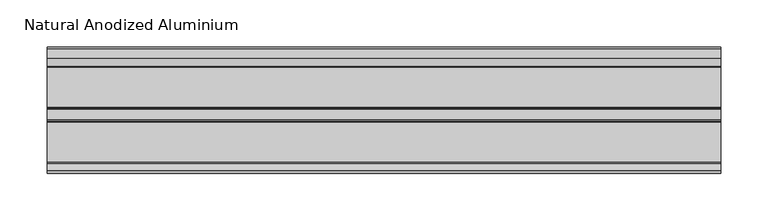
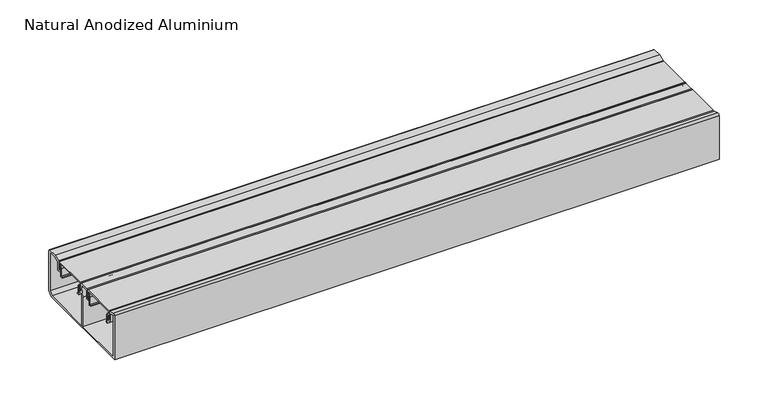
"""IFC4 building model written with IfcOpenShell, lengths in millimetres: proxy geometry, Electrical_Installations_Hager_GBA-Flat-Lid-End-Cap : Natural Anodized Aluminium."""

from ifc_helpers import new_model, si_unit, point, frame, frame_2d, origin, place, context, project, spatial, polyline, circle_curve, trimmed, segment, composite_curve, outline, extrude, source, transform, mapped, element, save


def natural_anodized_aluminium_3c063e0a(model_context):
    return source(origin(), model_context, "Body", "SweptSolid", [
        extrude(outline(composite_curve([segment(polyline([(-64.6976563, 54.0894343), (-64.6976563, 2.0), (-2.2476563, 2.0), (-2.2476563, 38.3324137), (-0.2476563, 49.6749773), (-0.2476563, 52.0), (-9.8476563, 52.0), (-9.8476563, 41.5012147), (-14.5382813, 41.5012147), (-14.5382813, 45.748101), (-13.5382813, 45.748101), (-13.5382813, 42.9887147), (-11.6476563, 42.9887147), (-11.6476563, 53.0031102)]), True, "CONTINUOUS"), segment(trimmed(circle_curve(frame_2d((-10.6507665, 53.0031102)), 0.9968898), [point((-11.6476563, 53.0031102))], [point((-10.6507665, 54.0))], False, "CARTESIAN"), True, "CONTINUOUS"), segment(polyline([(-10.6507665, 54.0), (0.7441474, 54.0)]), True, "CONTINUOUS"), segment(trimmed(circle_curve(frame_2d((0.7441474, 52.9918037)), 1.0081963), [point((0.7441474, 54.0))], [point((1.7523437, 52.9918037))], False, "CARTESIAN"), True, "CONTINUOUS"), segment(polyline([(1.7523437, 52.9918037), (1.7523437, 49.5), (0.6591165, 43.3), (3.2523437, 43.3), (3.2523437, 45.7537431), (4.2523437, 45.7537431), (4.2523437, 41.5), (0.3417279, 41.5), (-0.2476563, 38.1574364), (-0.2476563, 2.0), (60.5496526, 2.0), (64.5023437, 5.9526912), (64.5023437, 54.2), (54.8614746, 54.2), (48.5523437, 52.1500391), (48.5523437, 41.5), (44.2523437, 41.5), (44.2523437, 45.7556921), (45.2523437, 45.7556921), (45.2523437, 42.9887147), (46.7523437, 42.9887147), (46.7523437, 53.9835468), (54.4971904, 56.5), (64.8989144, 56.5)]), True, "CONTINUOUS"), segment(trimmed(circle_curve(frame_2d((64.8989144, 54.5965707)), 1.9034293), [point((64.8989144, 56.5))], [point((66.8023437, 54.5965707))], False, "CARTESIAN"), True, "CONTINUOUS"), segment(polyline([(66.8023437, 54.5965707), (66.8023437, 5.0), (61.8023437, 0.0), (-66.9976563, 0.0), (-66.9976563, 54.4045249)]), True, "CONTINUOUS"), segment(trimmed(circle_curve(frame_2d((-64.9278927, 54.4045249)), 2.0697636), [point((-66.9976563, 54.4045249))], [point((-64.2989994, 56.3764312))], False, "CARTESIAN"), True, "CONTINUOUS"), segment(polyline([(-64.2989994, 56.3764312), (-56.8429688, 53.998505), (-56.8429688, 42.9887147), (-54.6789063, 42.9887147), (-54.6789063, 45.7565885), (-53.6789063, 45.7565885), (-53.6789063, 41.5012147), (-58.4476563, 41.5012147), (-58.4476563, 52.0961433), (-64.6976563, 54.0894343)]), True, "CONTINUOUS")], self_intersect=False)), frame((0.0, 0.0, 0.0), z_axis=(1.0, 0.0, 0.0), x_axis=(0.0, 1.0, 0.0)), (0.0, 0.0, 1.0), 712.5),
        extrude(outline(composite_curve([segment(polyline([(-13.1613464, 52.5816445), (-55.0613464, 52.5816445), (-55.0613464, 49.2816445), (-53.7229555, 49.2816445)]), True, "CONTINUOUS"), segment(trimmed(circle_curve(frame_2d((-53.7229555, 47.1700354)), 2.1116091), [point((-53.7229555, 49.2816445))], [point((-51.6113464, 47.1700354))], False, "CARTESIAN"), True, "CONTINUOUS"), segment(polyline([(-51.6113464, 47.1700354), (-51.6113464, 37.6816445), (-49.7113464, 37.6816445), (-49.7113464, 36.8816445), (-52.6113464, 36.8816445), (-52.6113464, 47.3262929)]), True, "CONTINUOUS"), segment(trimmed(circle_curve(frame_2d((-53.566698, 47.3262929)), 0.9553516), [point((-52.6113464, 47.3262929))], [point((-53.566698, 48.2816445))], True, "CARTESIAN"), True, "CONTINUOUS"), segment(polyline([(-53.566698, 48.2816445), (-55.3644879, 48.2816445), (-55.3644879, 43.8012242), (-56.3660339, 43.8012242), (-56.3660339, 53.0900381)]), True, "CONTINUOUS"), segment(trimmed(circle_curve(frame_2d((-55.456072, 53.0900381)), 0.9099619), [point((-56.3660339, 53.0900381))], [point((-55.456072, 54.0))], False, "CARTESIAN"), True, "CONTINUOUS"), segment(polyline([(-55.456072, 54.0), (-12.9820268, 54.0)]), True, "CONTINUOUS"), segment(trimmed(circle_curve(frame_2d((-12.9820268, 52.9918196)), 1.0081804), [point((-12.9820268, 54.0))], [point((-11.9738464, 52.9918196))], False, "CARTESIAN"), True, "CONTINUOUS"), segment(polyline([(-11.9738464, 52.9918196), (-11.9738464, 43.8012242), (-12.858205, 43.8012242), (-12.858205, 48.2816445), (-14.6025892, 48.2816445)]), True, "CONTINUOUS"), segment(trimmed(circle_curve(frame_2d((-14.6025892, 47.2728873)), 1.0087572), [point((-14.6025892, 48.2816445))], [point((-15.6113464, 47.2728873))], True, "CARTESIAN"), True, "CONTINUOUS"), segment(polyline([(-15.6113464, 47.2728873), (-15.6113464, 36.8816445), (-18.5113464, 36.8816445), (-18.5113464, 37.6816445), (-16.6113464, 37.6816445), (-16.6113464, 47.3197896)]), True, "CONTINUOUS"), segment(trimmed(circle_curve(frame_2d((-14.6494915, 47.3197896)), 1.9618549), [point((-16.6113464, 47.3197896))], [point((-14.6494915, 49.2816445))], False, "CARTESIAN"), True, "CONTINUOUS"), segment(polyline([(-14.6494915, 49.2816445), (-13.1613464, 49.2816445), (-13.1613464, 52.5816445)]), True, "CONTINUOUS")], self_intersect=False)), frame((0.0, 0.0, 0.0), z_axis=(1.0, 0.0, 0.0), x_axis=(0.0, 1.0, 0.0)), (0.0, 0.0, 1.0), 712.5),
        extrude(outline(composite_curve([segment(polyline([(45.1923672, 52.5816445), (3.2923672, 52.5816445), (3.2923672, 49.2816445), (4.6307581, 49.2816445)]), True, "CONTINUOUS"), segment(trimmed(circle_curve(frame_2d((4.6307581, 47.1700354)), 2.1116091), [point((4.6307581, 49.2816445))], [point((6.7423672, 47.1700354))], False, "CARTESIAN"), True, "CONTINUOUS"), segment(polyline([(6.7423672, 47.1700354), (6.7423672, 37.6816445), (8.6423672, 37.6816445), (8.6423672, 36.8816445), (5.7423672, 36.8816445), (5.7423672, 47.3262929)]), True, "CONTINUOUS"), segment(trimmed(circle_curve(frame_2d((4.7870156, 47.3262929)), 0.9553516), [point((5.7423672, 47.3262929))], [point((4.7870156, 48.2816445))], True, "CARTESIAN"), True, "CONTINUOUS"), segment(polyline([(4.7870156, 48.2816445), (2.9892258, 48.2816445), (2.9892258, 43.8231023), (1.9876797, 43.8231023), (1.9876797, 53.0900381)]), True, "CONTINUOUS"), segment(trimmed(circle_curve(frame_2d((2.8976417, 53.0900381)), 0.9099619), [point((1.9876797, 53.0900381))], [point((2.8976417, 54.0))], False, "CARTESIAN"), True, "CONTINUOUS"), segment(polyline([(2.8976417, 54.0), (45.3716869, 54.0)]), True, "CONTINUOUS"), segment(trimmed(circle_curve(frame_2d((45.3716869, 52.9918196)), 1.0081804), [point((45.3716869, 54.0))], [point((46.3798672, 52.9918196))], False, "CARTESIAN"), True, "CONTINUOUS"), segment(polyline([(46.3798672, 52.9918196), (46.3798672, 43.9733035), (45.4955087, 43.9733035), (45.4955087, 48.2816445), (43.7511244, 48.2816445)]), True, "CONTINUOUS"), segment(trimmed(circle_curve(frame_2d((43.7511244, 47.2728873)), 1.0087572), [point((43.7511244, 48.2816445))], [point((42.7423672, 47.2728873))], True, "CARTESIAN"), True, "CONTINUOUS"), segment(polyline([(42.7423672, 47.2728873), (42.7423672, 36.8816445), (39.8423672, 36.8816445), (39.8423672, 37.6816445), (41.7423672, 37.6816445), (41.7423672, 47.3197896)]), True, "CONTINUOUS"), segment(trimmed(circle_curve(frame_2d((43.7042221, 47.3197896)), 1.9618549), [point((41.7423672, 47.3197896))], [point((43.7042221, 49.2816445))], False, "CARTESIAN"), True, "CONTINUOUS"), segment(polyline([(43.7042221, 49.2816445), (45.1923672, 49.2816445), (45.1923672, 52.5816445)]), True, "CONTINUOUS")], self_intersect=False)), frame((0.0, 0.0, 0.0), z_axis=(1.0, 0.0, 0.0), x_axis=(0.0, 1.0, 0.0)), (0.0, 0.0, 1.0), 712.5),
    ])


if __name__ == "__main__":
    model = new_model("IFC4")
    model_context = context("Model", 3, world=origin())
    ifc_project = project(units=[si_unit("LENGTHUNIT", "METRE", prefix="MILLI")], contexts=[model_context])
    site = spatial("IfcSite", under=ifc_project)
    building = spatial("IfcBuilding", under=site)
    placement = place(None, origin())
    natural_anodized_aluminium_shape = natural_anodized_aluminium_3c063e0a(model_context)
    element("IfcBuildingElementProxy", 1, Name="Electrical_Installations_Hager_GBA-Flat-Lid-End-Cap : Natural Anodized Aluminium", ObjectType="Electrical_Installations_Hager_GBA-Flat-Lid-End-Cap : Natural Anodized Aluminium", at=placement, inside=building, context=model_context, shape_type="MappedRepresentation", body=[
        mapped(natural_anodized_aluminium_shape, transform((0.0, 0.0, 0.0), x_axis=(1.0, 0.0, 0.0), y_axis=(0.0, 1.0, 0.0), z_axis=(0.0, 0.0, 1.0))),
    ])
    save(model, "model.ifc")
